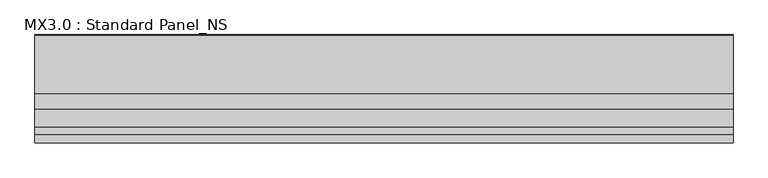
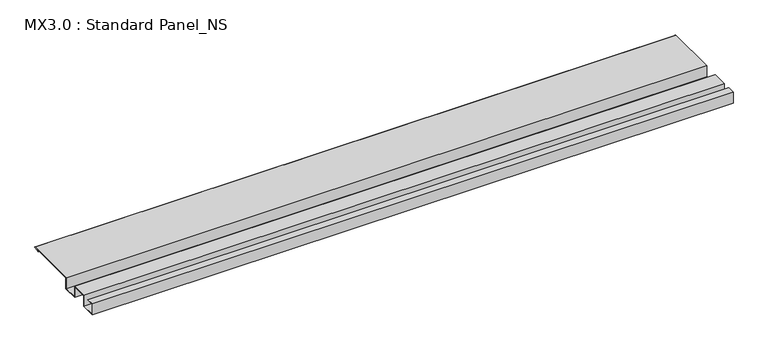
"""IFC4 building model written with IfcOpenShell, lengths in millimetres: proxy geometry, MX3.0 : Standard Panel_NS."""

from ifc_helpers import new_model, si_unit, point, frame, frame_2d, origin, place, context, project, spatial, polyline, circle_curve, trimmed, segment, composite_curve, outline, extrude, source, transform, mapped, element, save


def mx3_0_standard_panel_ns_9c684af8(model_context):
    return source(origin(), model_context, "Body", "SweptSolid", [
        extrude(outline(composite_curve([segment(polyline([(0.0, 0.0), (25.0, 0.0), (25.0, -1.0), (1.0, -1.0), (1.0, -37.0), (49.0, -37.0), (49.0, 0.0), (101.0, 0.0), (101.0, -37.0), (149.0, -37.0), (149.0, 1.0), (325.0510156, 1.0)]), True, "CONTINUOUS"), segment(trimmed(circle_curve(frame_2d((324.3094696, -0.9153551)), 2.0538928), [point((325.0510156, 1.0))], [point((325.1748462, -2.778041))], False, "CARTESIAN"), True, "CONTINUOUS"), segment(polyline([(325.1748462, -2.778041), (308.7874714, -5.923107), (308.5989911, -4.94103), (324.8448691, -1.8231201)]), True, "CONTINUOUS"), segment(trimmed(circle_curve(frame_2d((324.3094696, -0.9153551)), 1.0538928), [point((324.8448691, -1.8231201))], [point((324.8317866, 0.0))], True, "CARTESIAN"), True, "CONTINUOUS"), segment(polyline([(324.8317866, 0.0), (150.0, 0.0), (150.0, -38.0), (100.0, -38.0), (100.0, -1.0), (50.0, -1.0), (50.0, -38.0), (0.0, -38.0), (0.0, 0.0)]), True, "CONTINUOUS")], self_intersect=False)), frame((0.0, 0.0, 0.0), z_axis=(1.0, 0.0, 0.0), x_axis=(0.0, 1.0, 0.0)), (0.0, 0.0, 1.0), 2100.0),
    ])


if __name__ == "__main__":
    model = new_model("IFC4")
    model_context = context("Model", 3, world=origin())
    ifc_project = project(units=[si_unit("LENGTHUNIT", "METRE", prefix="MILLI")], contexts=[model_context])
    site = spatial("IfcSite", under=ifc_project)
    building = spatial("IfcBuilding", under=site)
    placement = place(None, origin())
    mx3_0_standard_panel_ns_shape = mx3_0_standard_panel_ns_9c684af8(model_context)
    element("IfcBuildingElementProxy", 1, Name="MX3.0 : Standard Panel_NS", ObjectType="MX3.0 : Standard Panel_NS", at=placement, inside=building, context=model_context, shape_type="MappedRepresentation", body=[
        mapped(mx3_0_standard_panel_ns_shape, transform((0.0, 0.0, 0.0), x_axis=(1.0, 0.0, 0.0), y_axis=(0.0, 1.0, 0.0), z_axis=(0.0, 0.0, 1.0))),
    ])
    save(model, "model.ifc")
